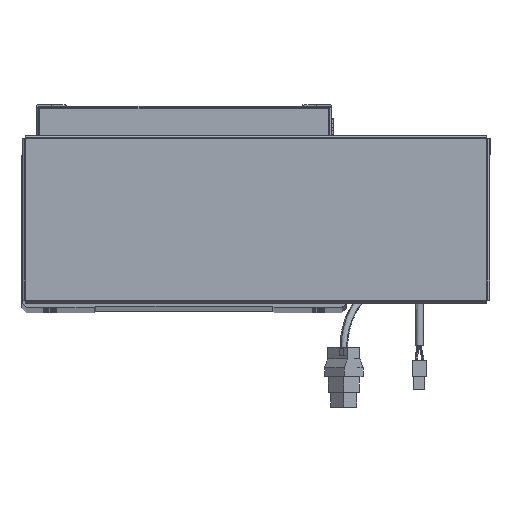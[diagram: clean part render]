
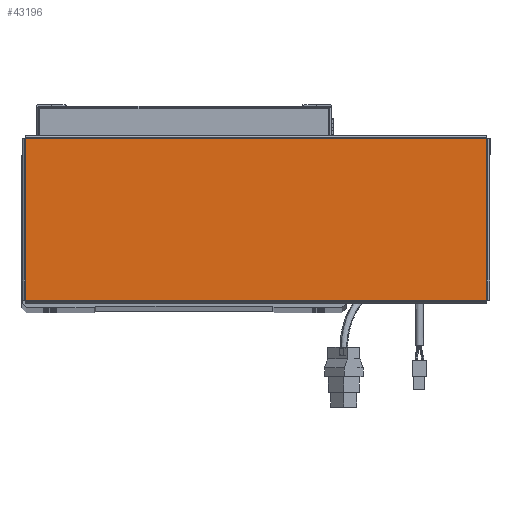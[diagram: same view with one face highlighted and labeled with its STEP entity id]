
A CAD part, top view. The second image highlights one B-rep face of the part: STEP entity #43196.
In plain terms, the highlighted planar face has unit normal (0, 0, 1).
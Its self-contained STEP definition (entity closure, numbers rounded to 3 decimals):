
#210 = VERTEX_POINT ( 'NONE', #34441 ) ;
#2128 = LINE ( 'NONE', #12050, #48970 ) ;
#2234 = EDGE_CURVE ( 'NONE', #64079, #210, #19068, .T. ) ;
#2665 = EDGE_LOOP ( 'NONE', ( #40158, #9781, #44424, #55140 ) ) ;
#4960 = AXIS2_PLACEMENT_3D ( 'NONE', #51713, #13853, #29784 ) ;
#6366 = EDGE_CURVE ( 'NONE', #210, #69254, #2128, .T. ) ;
#6894 = CARTESIAN_POINT ( 'NONE',  ( -156.513, 54.763, 0. ) ) ;
#9514 = CARTESIAN_POINT ( 'NONE',  ( 156.513, 54.763, 0. ) ) ;
#9781 = ORIENTED_EDGE ( 'NONE', *, *, #18229, .T. ) ;
#12050 = CARTESIAN_POINT ( 'NONE',  ( -156.543, -54.763, 0. ) ) ;
#12910 = DIRECTION ( 'NONE',  ( 0., 1., 0. ) ) ;
#13071 = VECTOR ( 'NONE', #12910, 1000. ) ;
#13853 = DIRECTION ( 'NONE',  ( 0., 0., 1. ) ) ;
#17417 = VECTOR ( 'NONE', #62874, 1000. ) ;
#18229 = EDGE_CURVE ( 'NONE', #69254, #32223, #45450, .T. ) ;
#19068 = LINE ( 'NONE', #58503, #52292 ) ;
#19772 = PLANE ( 'NONE',  #4960 ) ;
#25870 = DIRECTION ( 'NONE',  ( 0., -1., 0. ) ) ;
#28322 = FACE_OUTER_BOUND ( 'NONE', #2665, .T. ) ;
#28842 = CARTESIAN_POINT ( 'NONE',  ( 156.513, -54.793, 0. ) ) ;
#29784 = DIRECTION ( 'NONE',  ( 1., 0., 0. ) ) ;
#32223 = VERTEX_POINT ( 'NONE', #9514 ) ;
#34441 = CARTESIAN_POINT ( 'NONE',  ( -156.513, -54.763, 0. ) ) ;
#38934 = DIRECTION ( 'NONE',  ( 1., 0., 0. ) ) ;
#40158 = ORIENTED_EDGE ( 'NONE', *, *, #6366, .T. ) ;
#42668 = CARTESIAN_POINT ( 'NONE',  ( 156.513, -54.763, 0. ) ) ;
#43196 = ADVANCED_FACE ( 'NONE', ( #28322 ), #19772, .T. ) ;
#44424 = ORIENTED_EDGE ( 'NONE', *, *, #58937, .T. ) ;
#45450 = LINE ( 'NONE', #28842, #13071 ) ;
#48970 = VECTOR ( 'NONE', #38934, 1000. ) ;
#51713 = CARTESIAN_POINT ( 'NONE',  ( 0., 0., 0. ) ) ;
#52292 = VECTOR ( 'NONE', #25870, 1000. ) ;
#55140 = ORIENTED_EDGE ( 'NONE', *, *, #2234, .T. ) ;
#58503 = CARTESIAN_POINT ( 'NONE',  ( -156.513, 54.793, 0. ) ) ;
#58937 = EDGE_CURVE ( 'NONE', #32223, #64079, #59192, .T. ) ;
#59192 = LINE ( 'NONE', #68338, #17417 ) ;
#62874 = DIRECTION ( 'NONE',  ( -1., 0., 0. ) ) ;
#64079 = VERTEX_POINT ( 'NONE', #6894 ) ;
#68338 = CARTESIAN_POINT ( 'NONE',  ( 156.543, 54.763, 0. ) ) ;
#69254 = VERTEX_POINT ( 'NONE', #42668 ) ;
